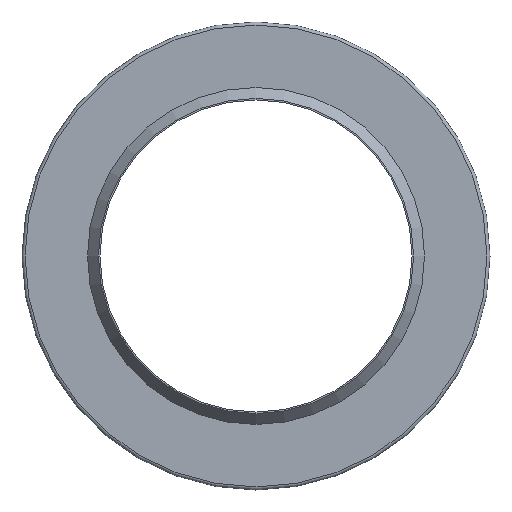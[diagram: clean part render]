
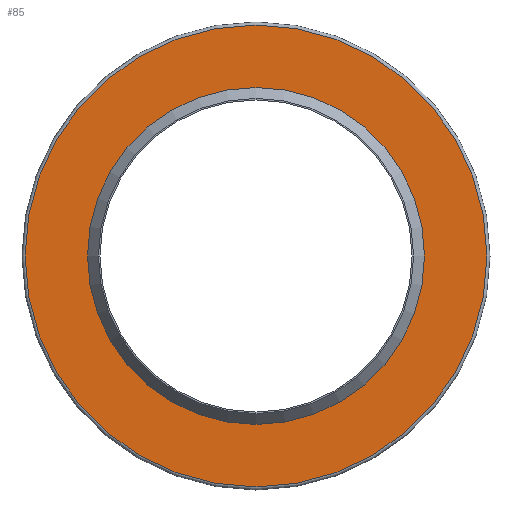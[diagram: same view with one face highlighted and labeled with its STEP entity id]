
A CAD part, left-side view. The second image highlights one B-rep face of the part: STEP entity #85.
In plain terms, the highlighted planar face has unit normal (-1, 0, 0).
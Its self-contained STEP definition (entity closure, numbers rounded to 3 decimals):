
#85=ADVANCED_FACE('',(#120,#121),#122,.T.);
#120=FACE_OUTER_BOUND('',#162,.T.);
#121=FACE_BOUND('',#163,.T.);
#122=PLANE('',#164);
#162=EDGE_LOOP('',(#224));
#163=EDGE_LOOP('',(#225));
#164=AXIS2_PLACEMENT_3D('',#226,#227,#228);
#224=ORIENTED_EDGE('',*,*,#255,.T.);
#225=ORIENTED_EDGE('',*,*,#254,.F.);
#226=CARTESIAN_POINT('',(-6.,27.,0.0));
#227=DIRECTION('',(-1.0,0.0,0.0));
#228=DIRECTION('',(0.0,0.0,1.0));
#254=EDGE_CURVE('',#278,#278,#279,.T.);
#255=EDGE_CURVE('',#280,#280,#281,.T.);
#278=VERTEX_POINT('',#306);
#279=CIRCLE('',#307,27.);
#280=VERTEX_POINT('',#308);
#281=CIRCLE('',#309,37.);
#306=CARTESIAN_POINT('',(-6.,0.0,27.));
#307=AXIS2_PLACEMENT_3D('',#344,#345,#346);
#308=CARTESIAN_POINT('',(-6.,0.0,37.));
#309=AXIS2_PLACEMENT_3D('',#347,#348,#349);
#344=CARTESIAN_POINT('',(-6.,0.0,0.0));
#345=DIRECTION('',(-1.0,0.0,0.0));
#346=DIRECTION('',(0.0,0.0,1.0));
#347=CARTESIAN_POINT('',(-6.,0.0,0.0));
#348=DIRECTION('',(-1.0,0.0,0.0));
#349=DIRECTION('',(0.0,0.0,1.0));
